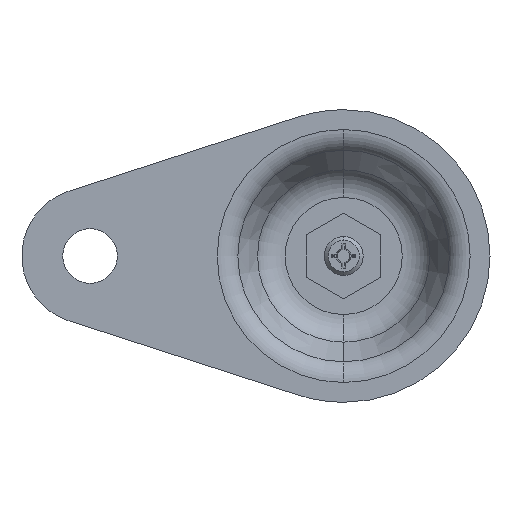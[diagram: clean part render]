
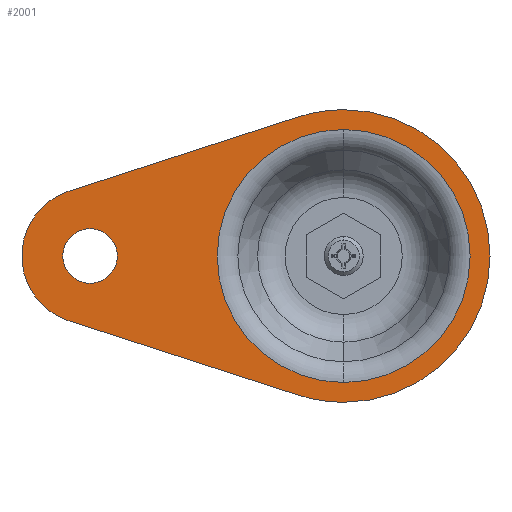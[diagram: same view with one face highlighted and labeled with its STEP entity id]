
A CAD part, front view. The second image highlights one B-rep face of the part: STEP entity #2001.
In plain terms, the highlighted planar face has unit normal (0, -1, 0).
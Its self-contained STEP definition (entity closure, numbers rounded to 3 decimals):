
#14 = EDGE_CURVE ( 'NONE', #503, #505, #112, .T. ) ;
#25 = EDGE_CURVE ( 'NONE', #434, #386, #130, .T. ) ;
#26 = EDGE_CURVE ( 'NONE', #434, #391, #128, .T. ) ;
#27 = EDGE_CURVE ( 'NONE', #505, #503, #131, .T. ) ;
#112 = CIRCLE ( 'NONE', #1528, 7. ) ;
#128 = LINE ( 'NONE', #1667, #133 ) ;
#130 = CIRCLE ( 'NONE', #1534, 37.5 ) ;
#131 = CIRCLE ( 'NONE', #1535, 7. ) ;
#133 = VECTOR ( 'NONE', #1682, 1000. ) ;
#312 = CIRCLE ( 'NONE', #1087, 37.5 ) ;
#356 = VERTEX_POINT ( 'NONE', #2181 ) ;
#386 = VERTEX_POINT ( 'NONE', #2087 ) ;
#391 = VERTEX_POINT ( 'NONE', #2079 ) ;
#392 = VERTEX_POINT ( 'NONE', #2072 ) ;
#429 = VERTEX_POINT ( 'NONE', #2236 ) ;
#434 = VERTEX_POINT ( 'NONE', #2224 ) ;
#438 = VERTEX_POINT ( 'NONE', #2219 ) ;
#503 = VERTEX_POINT ( 'NONE', #2195 ) ;
#505 = VERTEX_POINT ( 'NONE', #2193 ) ;
#513 = VERTEX_POINT ( 'NONE', #2179 ) ;
#562 = PLANE ( 'NONE',  #1951 ) ;
#563 = CARTESIAN_POINT ( 'NONE',  ( -37.5, 0., 0. ) ) ;
#568 = DIRECTION ( 'NONE',  ( 0., 1., 0. ) ) ;
#578 = DIRECTION ( 'NONE',  ( 0., 0., 1. ) ) ;
#801 = EDGE_LOOP ( 'NONE', ( #1903, #1896, #1901, #1898, #1892, #1900 ) ) ;
#822 = EDGE_LOOP ( 'NONE', ( #1895, #1899 ) ) ;
#838 = EDGE_LOOP ( 'NONE', ( #1893, #1897 ) ) ;
#1087 = AXIS2_PLACEMENT_3D ( 'NONE', #1382, #1196, #1437 ) ;
#1096 = AXIS2_PLACEMENT_3D ( 'NONE', #1452, #1312, #1240 ) ;
#1102 = AXIS2_PLACEMENT_3D ( 'NONE', #1429, #1393, #1392 ) ;
#1103 = AXIS2_PLACEMENT_3D ( 'NONE', #1408, #1407, #1426 ) ;
#1105 = AXIS2_PLACEMENT_3D ( 'NONE', #1235, #1238, #1237 ) ;
#1196 = DIRECTION ( 'NONE',  ( 0., -1., 0. ) ) ;
#1235 = CARTESIAN_POINT ( 'NONE',  ( 0., 0., 0. ) ) ;
#1237 = DIRECTION ( 'NONE',  ( 0., 0., -1. ) ) ;
#1238 = DIRECTION ( 'NONE',  ( 0., -1., 0. ) ) ;
#1240 = DIRECTION ( 'NONE',  ( 0., 0., -1. ) ) ;
#1312 = DIRECTION ( 'NONE',  ( 0., -1., 0. ) ) ;
#1320 = EDGE_CURVE ( 'NONE', #386, #429, #312, .T. ) ;
#1382 = CARTESIAN_POINT ( 'NONE',  ( 0., 0., 0. ) ) ;
#1392 = DIRECTION ( 'NONE',  ( 0., 0., -1. ) ) ;
#1393 = DIRECTION ( 'NONE',  ( 0., -1., 0. ) ) ;
#1396 = DIRECTION ( 'NONE',  ( 0.951, 0., 0.308 ) ) ;
#1407 = DIRECTION ( 'NONE',  ( 0., 1., 0. ) ) ;
#1408 = CARTESIAN_POINT ( 'NONE',  ( -65., 0., 0. ) ) ;
#1426 = DIRECTION ( 'NONE',  ( 0., 0., 1. ) ) ;
#1429 = CARTESIAN_POINT ( 'NONE',  ( 0., 0., 0. ) ) ;
#1430 = CARTESIAN_POINT ( 'NONE',  ( -70.385, 0., 16.651 ) ) ;
#1437 = DIRECTION ( 'NONE',  ( 0., 0., -1. ) ) ;
#1452 = CARTESIAN_POINT ( 'NONE',  ( 0., 0., 0. ) ) ;
#1501 = EDGE_CURVE ( 'NONE', #429, #438, #1750, .T. ) ;
#1509 = EDGE_CURVE ( 'NONE', #356, #513, #1763, .T. ) ;
#1510 = EDGE_CURVE ( 'NONE', #392, #438, #1761, .T. ) ;
#1511 = EDGE_CURVE ( 'NONE', #391, #392, #1765, .T. ) ;
#1514 = EDGE_CURVE ( 'NONE', #513, #356, #1770, .T. ) ;
#1528 = AXIS2_PLACEMENT_3D ( 'NONE', #1719, #1658, #1652 ) ;
#1534 = AXIS2_PLACEMENT_3D ( 'NONE', #1685, #1684, #1683 ) ;
#1535 = AXIS2_PLACEMENT_3D ( 'NONE', #1714, #1672, #1671 ) ;
#1652 = DIRECTION ( 'NONE',  ( 0., 0., 1. ) ) ;
#1658 = DIRECTION ( 'NONE',  ( 0., 1., 0. ) ) ;
#1667 = CARTESIAN_POINT ( 'NONE',  ( -70.385, 0., -16.651 ) ) ;
#1671 = DIRECTION ( 'NONE',  ( 0., 0., 1. ) ) ;
#1672 = DIRECTION ( 'NONE',  ( 0., 1., 0. ) ) ;
#1682 = DIRECTION ( 'NONE',  ( -0.951, 0., 0.308 ) ) ;
#1683 = DIRECTION ( 'NONE',  ( 0., 0., -1. ) ) ;
#1684 = DIRECTION ( 'NONE',  ( 0., -1., 0. ) ) ;
#1685 = CARTESIAN_POINT ( 'NONE',  ( 0., 0., 0. ) ) ;
#1714 = CARTESIAN_POINT ( 'NONE',  ( -65., 0., 0. ) ) ;
#1719 = CARTESIAN_POINT ( 'NONE',  ( -65., 0., 0. ) ) ;
#1750 = CIRCLE ( 'NONE', #1096, 37.5 ) ;
#1761 = LINE ( 'NONE', #1430, #1766 ) ;
#1763 = CIRCLE ( 'NONE', #1102, 32.412 ) ;
#1765 = CIRCLE ( 'NONE', #1103, 17.5 ) ;
#1766 = VECTOR ( 'NONE', #1396, 1000. ) ;
#1770 = CIRCLE ( 'NONE', #1105, 32.412 ) ;
#1842 = FACE_BOUND ( 'NONE', #822, .T. ) ;
#1855 = FACE_OUTER_BOUND ( 'NONE', #801, .T. ) ;
#1857 = FACE_BOUND ( 'NONE', #838, .T. ) ;
#1892 = ORIENTED_EDGE ( 'NONE', *, *, #1511, .F. ) ;
#1893 = ORIENTED_EDGE ( 'NONE', *, *, #1514, .F. ) ;
#1895 = ORIENTED_EDGE ( 'NONE', *, *, #27, .T. ) ;
#1896 = ORIENTED_EDGE ( 'NONE', *, *, #1320, .T. ) ;
#1897 = ORIENTED_EDGE ( 'NONE', *, *, #1509, .F. ) ;
#1898 = ORIENTED_EDGE ( 'NONE', *, *, #1510, .F. ) ;
#1899 = ORIENTED_EDGE ( 'NONE', *, *, #14, .T. ) ;
#1900 = ORIENTED_EDGE ( 'NONE', *, *, #26, .F. ) ;
#1901 = ORIENTED_EDGE ( 'NONE', *, *, #1501, .T. ) ;
#1903 = ORIENTED_EDGE ( 'NONE', *, *, #25, .T. ) ;
#1951 = AXIS2_PLACEMENT_3D ( 'NONE', #563, #568, #578 ) ;
#2001 = ADVANCED_FACE ( 'NONE', ( #1855, #1857, #1842 ), #562, .F. ) ;
#2072 = CARTESIAN_POINT ( 'NONE',  ( -70.385, 0., 16.651 ) ) ;
#2079 = CARTESIAN_POINT ( 'NONE',  ( -70.385, 0., -16.651 ) ) ;
#2087 = CARTESIAN_POINT ( 'NONE',  ( 0., 0., -37.5 ) ) ;
#2179 = CARTESIAN_POINT ( 'NONE',  ( 0., 0., -32.412 ) ) ;
#2181 = CARTESIAN_POINT ( 'NONE',  ( 0., 0., 32.412 ) ) ;
#2193 = CARTESIAN_POINT ( 'NONE',  ( -65., 0., 7. ) ) ;
#2195 = CARTESIAN_POINT ( 'NONE',  ( -65., 0., -7. ) ) ;
#2219 = CARTESIAN_POINT ( 'NONE',  ( -11.538, 0., 35.681 ) ) ;
#2224 = CARTESIAN_POINT ( 'NONE',  ( -11.538, 0., -35.681 ) ) ;
#2236 = CARTESIAN_POINT ( 'NONE',  ( 0., 0., 37.5 ) ) ;
